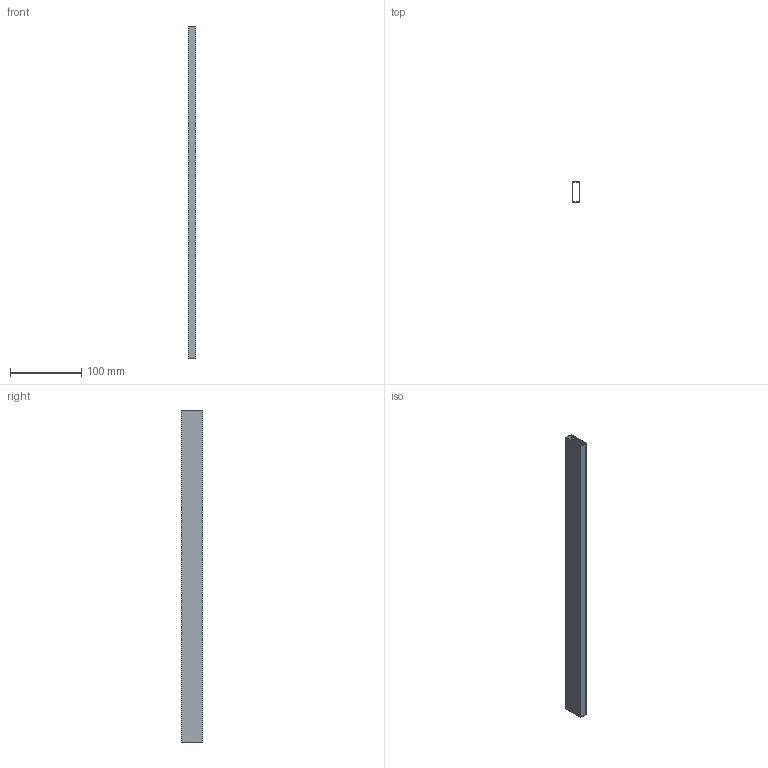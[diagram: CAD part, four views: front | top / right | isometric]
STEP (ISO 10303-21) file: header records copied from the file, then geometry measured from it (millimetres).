
FILE_DESCRIPTION (( 'STEP AP214' ), '1' );
FILE_NAME ('_DWD XP Rechteckreling NL500.step', '2010-07-14T13:27:53', ( 'grass' ), ( '' ), 'SwSTEP 2.0', 'SolidWorks 2010', '' );
FILE_SCHEMA (( 'AUTOMOTIVE_DESIGN' ));
Length unit declared in the file: millimetre
Products named in the file (1): _DWD XP Rechteckreling NL500
Bounding box: 10.5 x 30 x 467.1 mm (x, y, z)
Volume: 22028.4 mm3; surface area: 73522.4 mm2
Topology: 1 solids, 1 shells, 10 faces, 24 edges, 16 vertices
Faces by surface type: plane 10
Entity records: 326 total; most frequent: CARTESIAN_POINT 51, ORIENTED_EDGE 48, DIRECTION 46, VECTOR 24, LINE 24, EDGE_CURVE 24, VERTEX_POINT 16, EDGE_LOOP 12
